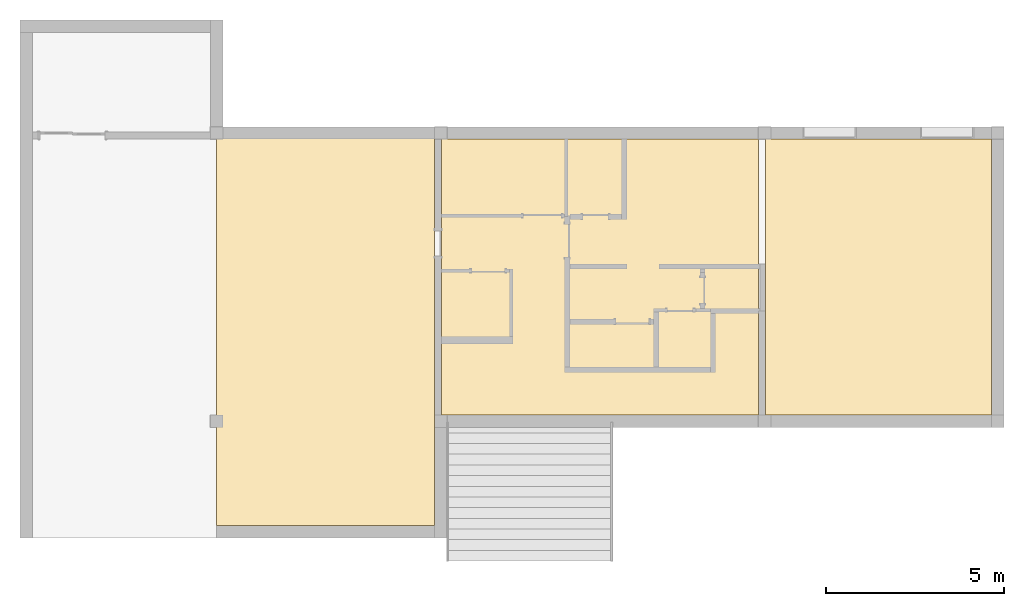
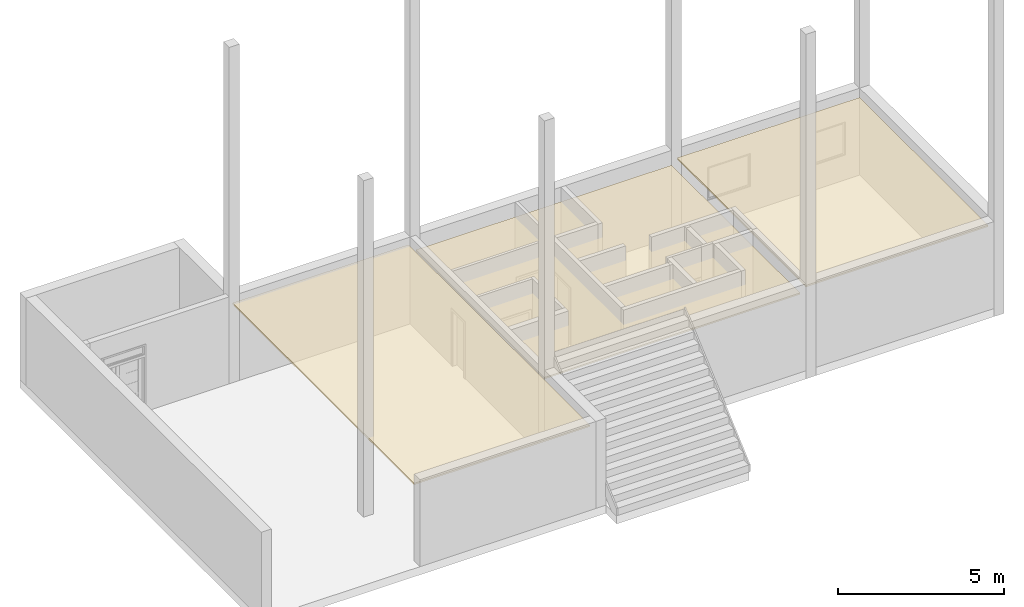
# One storey, part 5 of 5: 3 coverings.
"""IFC2X3 building model written with IfcOpenShell, lengths in metres."""

from ifc_helpers import new_model, entity, si_unit, converted_unit, derived_unit, direction, frame, frame_2d, origin, origin_2d_with_axis, place, context, subcontext, project, spatial, rectangle, extrude, material, layer, layer_set, layer_usage, type_object, element, save


model = new_model("IFC2X3")

# Units and contexts
model_context = context("Model", 3, precision=1e-05, world=origin(), true_north=direction((6.123031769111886e-17, 1.0)))
body_context = subcontext(model_context, "Body", "Model", "MODEL_VIEW")
ifc_project = project(units=[si_unit("LENGTHUNIT", "METRE"), si_unit("AREAUNIT", "SQUARE_METRE"), si_unit("VOLUMEUNIT", "CUBIC_METRE"), converted_unit("PLANEANGLEUNIT", "DEGREE", entity("IfcRatioMeasure", 0.017453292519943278), si_unit("PLANEANGLEUNIT", "RADIAN"), dimensions=[0, 0, 0, 0, 0, 0, 0]), si_unit("MASSUNIT", "GRAM", prefix="KILO"), derived_unit("MASSDENSITYUNIT", [(si_unit("MASSUNIT", "GRAM", prefix="KILO"), 1), (si_unit("LENGTHUNIT", "METRE"), -3)]), derived_unit("MOMENTOFINERTIAUNIT", [(si_unit("LENGTHUNIT", "METRE"), 4)]), si_unit("TIMEUNIT", "SECOND"), si_unit("FREQUENCYUNIT", "HERTZ"), si_unit("THERMODYNAMICTEMPERATUREUNIT", "DEGREE_CELSIUS"), derived_unit("THERMALTRANSMITTANCEUNIT", [(si_unit("MASSUNIT", "GRAM", prefix="KILO"), 1), (si_unit("THERMODYNAMICTEMPERATUREUNIT", "KELVIN"), -1), (si_unit("TIMEUNIT", "SECOND"), -3)]), derived_unit("VOLUMETRICFLOWRATEUNIT", [(si_unit("LENGTHUNIT", "METRE"), 3), (si_unit("TIMEUNIT", "SECOND"), -1)]), derived_unit("MASSFLOWRATEUNIT", [(si_unit("MASSUNIT", "GRAM", prefix="KILO"), 1), (si_unit("TIMEUNIT", "SECOND"), -1)]), derived_unit("ROTATIONALFREQUENCYUNIT", [(si_unit("TIMEUNIT", "SECOND"), -1)]), si_unit("ELECTRICCURRENTUNIT", "AMPERE"), si_unit("ELECTRICVOLTAGEUNIT", "VOLT"), si_unit("POWERUNIT", "WATT"), si_unit("FORCEUNIT", "NEWTON", prefix="KILO"), si_unit("ILLUMINANCEUNIT", "LUX"), si_unit("LUMINOUSFLUXUNIT", "LUMEN"), si_unit("LUMINOUSINTENSITYUNIT", "CANDELA"), derived_unit("USERDEFINED", [(si_unit("MASSUNIT", "GRAM", prefix="KILO"), -1), (si_unit("LENGTHUNIT", "METRE"), -2), (si_unit("TIMEUNIT", "SECOND"), 3), (si_unit("LUMINOUSFLUXUNIT", "LUMEN"), 1)]), derived_unit("SOUNDPOWERUNIT", [(si_unit("MASSUNIT", "GRAM", prefix="KILO"), 1), (si_unit("LENGTHUNIT", "METRE"), 2), (si_unit("TIMEUNIT", "SECOND"), -3)]), derived_unit("SOUNDPRESSUREUNIT", [(si_unit("MASSUNIT", "GRAM", prefix="KILO"), 1), (si_unit("LENGTHUNIT", "METRE"), -1), (si_unit("TIMEUNIT", "SECOND"), -2)]), derived_unit("LINEARVELOCITYUNIT", [(si_unit("LENGTHUNIT", "METRE"), 1), (si_unit("TIMEUNIT", "SECOND"), -1)]), si_unit("PRESSUREUNIT", "PASCAL"), derived_unit("USERDEFINED", [(si_unit("LENGTHUNIT", "METRE"), -2), (si_unit("MASSUNIT", "GRAM", prefix="KILO"), 1), (si_unit("TIMEUNIT", "SECOND"), -2)]), derived_unit("LINEARFORCEUNIT", [(si_unit("MASSUNIT", "GRAM", prefix="KILO"), 1), (si_unit("LENGTHUNIT", "METRE"), 1), (si_unit("TIMEUNIT", "SECOND"), -2), (si_unit("LENGTHUNIT", "METRE"), -1)]), derived_unit("PLANARFORCEUNIT", [(si_unit("MASSUNIT", "GRAM", prefix="KILO"), 1), (si_unit("LENGTHUNIT", "METRE"), 1), (si_unit("TIMEUNIT", "SECOND"), -2), (si_unit("LENGTHUNIT", "METRE"), -2)])], contexts=[model_context])

# Site, building, storey
site_placement = place(None, origin())
site = spatial("IfcSite", under=ifc_project, at=site_placement, Name="Default", CompositionType="ELEMENT")
building_placement = place(site_placement, origin())
building = spatial("IfcBuilding", under=site, at=building_placement, CompositionType="ELEMENT")
storey_placement = place(building_placement, frame((0.0, 0.0, -2.3)))
storey = spatial("IfcBuildingStorey", under=building, at=storey_placement, Name="B1", CompositionType="ELEMENT", Elevation=-2.3)

# Coverings
ifc_material_1 = material(Name="Metal - Stud Layer")
ifc_layer_1 = layer(ifc_material_1, 0.045)
ifc_material_2 = material(Name="Plasterboard")
ifc_layer_2 = layer(ifc_material_2, 0.011999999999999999)
ifc_layer_set = layer_set([ifc_layer_1, ifc_layer_2], Name="Compound Ceiling:Plain")
ifc_layer_usage_1 = layer_usage(ifc_layer_set, "AXIS3", "POSITIVE", 0.0)
covering_type_1 = type_object("IfcCoveringType", Name="Compound Ceiling:Plain", PredefinedType="CEILING")
covering_1_placement = place(storey_placement, origin())
element("IfcCovering", 1, at=covering_1_placement, inside=storey, type_object=covering_type_1, material=ifc_layer_usage_1, Name="Compound Ceiling:Plain", ObjectType="Compound Ceiling:Plain", PredefinedType="CEILING", context=body_context, shape_type="SweptSolid", body=[
    extrude(rectangle(XDim=6.125000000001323, YDim=10.9499999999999, at=origin_2d_with_axis()), frame((9.845183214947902, -2.7252925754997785, 2.8)), (0.0, 0.0, 1.0), 0.05699999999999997),
])
ifc_layer_usage_2 = layer_usage(ifc_layer_set, "AXIS3", "POSITIVE", 0.0)
covering_type_2 = type_object("IfcCoveringType", Name="Compound Ceiling:Plain", PredefinedType="CEILING")
covering_2_placement = place(storey_placement, origin())
element("IfcCovering", 2, at=covering_2_placement, inside=storey, type_object=covering_type_2, material=ifc_layer_usage_2, Name="Compound Ceiling:Plain", ObjectType="Compound Ceiling:Plain", PredefinedType="CEILING", context=body_context, shape_type="SweptSolid", body=[
    extrude(rectangle(XDim=7.749999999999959, YDim=6.350000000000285, at=frame_2d((0.0, 2.220446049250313e-15), x_axis=(1.0, 0.0))), frame((25.382683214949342, -1.2252925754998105, 2.8), z_axis=(0.0, 0.0, 1.0), x_axis=(0.0, -1.0, 0.0)), (0.0, 0.0, 1.0), 0.05699999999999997),
])
ifc_layer_usage_3 = layer_usage(ifc_layer_set, "AXIS3", "POSITIVE", 0.0)
covering_type_3 = type_object("IfcCoveringType", Name="Compound Ceiling:Plain", PredefinedType="CEILING")
covering_3_placement = place(storey_placement, origin())
element("IfcCovering", 3, at=covering_3_placement, inside=storey, type_object=covering_type_3, material=ifc_layer_usage_3, Name="Compound Ceiling:Plain", ObjectType="Compound Ceiling:Plain", PredefinedType="CEILING", context=body_context, shape_type="SweptSolid", body=[
    extrude(rectangle(XDim=8.900000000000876, YDim=7.74999999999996, at=frame_2d((2.220446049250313e-15, 0.0), x_axis=(1.0, 0.0))), frame((17.557683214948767, -1.2252925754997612, 2.6), z_axis=(0.0, 0.0, 1.0), x_axis=(-1.0, 0.0, 0.0)), (0.0, 0.0, 1.0), 0.05699999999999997),
])

save(model, "model.ifc")
